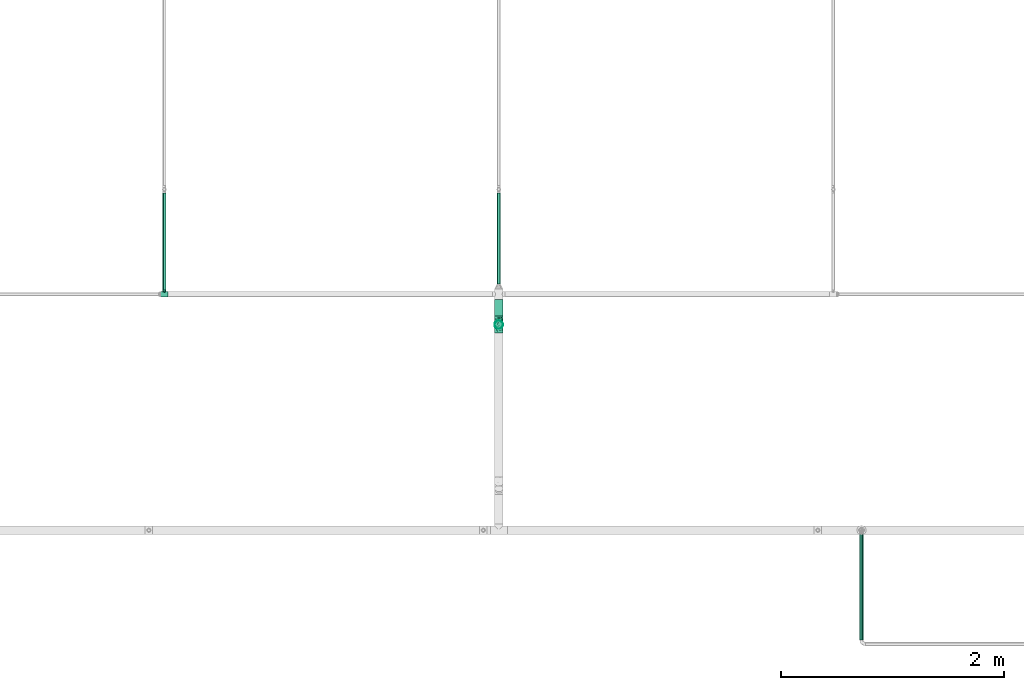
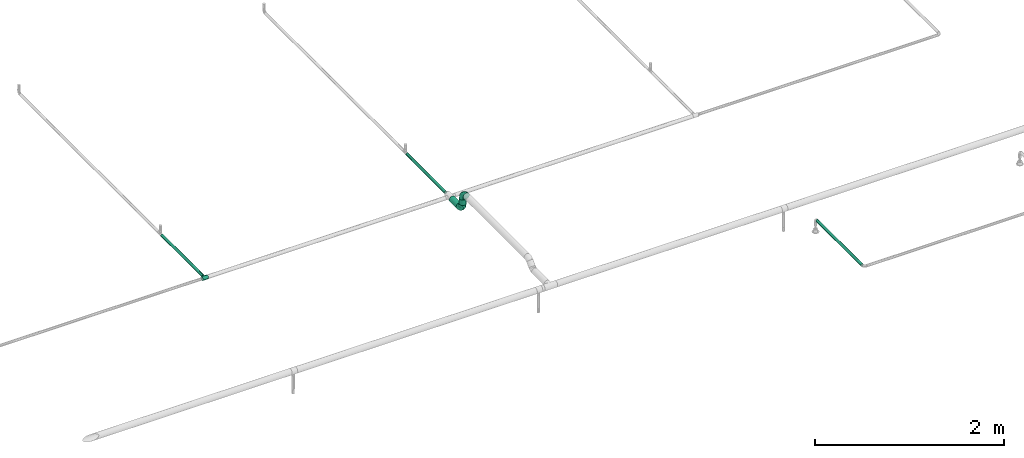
# One storey, part 13 of 45: 5 flow segments, 3 flow fittings.
"""IFC2X3 building model written with IfcOpenShell, lengths in millimetres."""

import ifcopenshell
import ifcopenshell.guid

model = None  # the IFC model being written
_history = None  # IfcOwnerHistory: only IFC2X3 demands one
_inside = {}  # id of a spatial element -> (the spatial element, [elements in it])
_under = {}  # id of a project, library or spatial element -> (it, [spatial elements below it])
_declared = {}  # id of a project -> (the project, [libraries it declares])
_typed = {}  # id of a type object -> (the type object, [elements of that type])
_made_of = {}  # id of a material, layer set ... -> (it, [elements and type objects made of it])


def new_model(schema):
    """Start an empty IFC model of exactly this schema.

    Asked for "IFC4X3", IfcOpenShell would pick the latest addendum, in which some entities
    have other attributes; the version numbers below select the first issue.
    IFC2X3 requires an IfcOwnerHistory on every rooted entity: one is made here for all.
    """
    global model, _history
    if schema == "IFC4X3":
        model = ifcopenshell.file(schema_version=(4, 3, 0, 0))
    else:
        model = ifcopenshell.file(schema=schema)
    _inside.clear()
    _under.clear()
    _declared.clear()
    _typed.clear()
    _made_of.clear()
    _history = None
    if model.schema == "IFC2X3":
        org = make("IfcOrganization", Name="unknown")
        user = make(
            "IfcPersonAndOrganization",
            ThePerson=make("IfcPerson", FamilyName="unknown"),
            TheOrganization=org,
        )
        app = make(
            "IfcApplication",
            ApplicationDeveloper=org,
            Version="unknown",
            ApplicationFullName="unknown",
            ApplicationIdentifier="unknown",
        )
        _history = make(
            "IfcOwnerHistory",
            OwningUser=user,
            OwningApplication=app,
            ChangeAction="ADDED",
            CreationDate=0,
        )
    return model


def make(cls, **values):
    """One entity of the class cls with the attributes given. An attribute that is None is left unset."""
    return model.create_entity(
        cls, **{name: value for name, value in values.items() if value is not None}
    )


def entity(cls, *values):
    """Any entity or typed value of the class cls, its attributes in the order of the schema. None: left unset."""
    e = model.create_entity(cls)
    for i, value in enumerate(values):
        if value is not None:
            e[i] = value
    return e


def rooted(cls, **values):
    """An entity with a GlobalId (a new one), such as an element, a storey or a relation."""
    return make(cls, GlobalId=ifcopenshell.guid.new(), OwnerHistory=_history, **values)


def si_unit(unit_type, name, prefix=None):
    """IfcSIUnit, for example si_unit("LENGTHUNIT", "METRE", prefix="MILLI")."""
    return make("IfcSIUnit", UnitType=unit_type, Prefix=prefix, Name=name)


def converted_unit(unit_type, name, factor, base, dimensions=None, offset=None):
    """IfcConversionBasedUnit, such as the inch: factor (a typed value) times the base unit."""
    return make(
        "IfcConversionBasedUnit"
        if offset is None
        else "IfcConversionBasedUnitWithOffset",
        ConversionOffset=offset,
        Dimensions=None
        if dimensions is None
        else entity("IfcDimensionalExponents", *dimensions),
        UnitType=unit_type,
        Name=name,
        ConversionFactor=make(
            "IfcMeasureWithUnit", ValueComponent=factor, UnitComponent=base
        ),
    )


def derived_unit(unit_type, elements):
    """IfcDerivedUnit: a product of units, each with its exponent."""
    return make(
        "IfcDerivedUnit",
        Elements=[
            make("IfcDerivedUnitElement", Unit=unit, Exponent=power)
            for unit, power in elements
        ],
        UnitType=unit_type,
    )


def assignment(units):
    """IfcUnitAssignment: the units of a project."""
    return None if units is None else make("IfcUnitAssignment", Units=units)


def point(xyz):
    """IfcCartesianPoint."""
    return None if xyz is None else make("IfcCartesianPoint", Coordinates=xyz)


def direction(xyz):
    """IfcDirection."""
    return None if xyz is None else make("IfcDirection", DirectionRatios=xyz)


def frame(location, z_axis=None, x_axis=None):
    """IfcAxis2Placement3D, a coordinate frame: its origin and axes. An axis left out is left unset."""
    return make(
        "IfcAxis2Placement3D",
        Location=point(location),
        Axis=direction(z_axis),
        RefDirection=direction(x_axis),
    )


def frame_2d(location, x_axis=None):
    """IfcAxis2Placement2D, a coordinate frame in the plane: its origin and x axis."""
    return make(
        "IfcAxis2Placement2D", Location=point(location), RefDirection=direction(x_axis)
    )


def origin_with_axes():
    """The frame at (0, 0, 0) with the z axis (0, 0, 1) and the x axis (1, 0, 0) written out."""
    return frame((0.0, 0.0, 0.0), z_axis=(0.0, 0.0, 1.0), x_axis=(1.0, 0.0, 0.0))


def origin_2d_with_axis():
    """The frame at (0, 0) in the plane with the x axis (1, 0) written out."""
    return frame_2d((0.0, 0.0), x_axis=(1.0, 0.0))


def place(relative_to, where):
    """IfcLocalPlacement: puts the frame where relative to a parent placement (None: the world)."""
    return make(
        "IfcLocalPlacement", PlacementRelTo=relative_to, RelativePlacement=where
    )


def context(
    kind, dimensions, precision=None, world=None, true_north=None, identifier=None
):
    """IfcGeometricRepresentationContext, for example the 3D "Model" context."""
    return make(
        "IfcGeometricRepresentationContext",
        ContextIdentifier=identifier,
        ContextType=kind,
        CoordinateSpaceDimension=dimensions,
        Precision=precision,
        WorldCoordinateSystem=world,
        TrueNorth=true_north,
    )


def subcontext(parent, identifier, kind, view, scale=None):
    """IfcGeometricRepresentationSubContext, for example "Body" below "Model"."""
    return make(
        "IfcGeometricRepresentationSubContext",
        ContextIdentifier=identifier,
        ContextType=kind,
        ParentContext=parent,
        TargetScale=scale,
        TargetView=view,
    )


def project(units=None, contexts=None):
    """IfcProject with its units and contexts."""
    return rooted(
        "IfcProject",
        Name="project",
        RepresentationContexts=contexts,
        UnitsInContext=assignment(units),
    )


def spatial(cls, under=None, at=None, **own):
    """A site, building, storey or space (cls), placed at a placement, below another one or the project."""
    s = rooted(cls, ObjectPlacement=at, **own)
    if under is not None:
        _under.setdefault(under.id(), (under, []))[1].append(s)
    return s


def profile(cls, at=None, kind="AREA", **sizes):
    """A parametric profile (cls). Its sizes go by their IFC names, for example OverallWidth=200.0."""
    return make(cls, ProfileType=kind, Position=at, **sizes)


def hollow_circle(**sizes):
    """IfcCircleHollowProfileDef."""
    return profile("IfcCircleHollowProfileDef", **sizes)


def extrude(swept, where, along, depth):
    """IfcExtrudedAreaSolid: the profile swept, set in the frame where, extruded along a direction by depth."""
    return make(
        "IfcExtrudedAreaSolid",
        SweptArea=swept,
        Position=where,
        ExtrudedDirection=direction(along),
        Depth=depth,
    )


def faces_of(points, faces, orient=None, outer=None):
    """IfcFace entities. A face is a list of loops; a loop is a list of indices into points, from 0.

    orient and outer hold one flag for each loop. By default every Orientation is true, the
    first loop of a face is its IfcFaceOuterBound and the others are IfcFaceBound.
    """
    made = []
    for i, loops in enumerate(faces):
        bounds = []
        for j, loop in enumerate(loops):
            is_outer = j == 0 if outer is None else outer[i][j]
            bounds.append(
                make(
                    "IfcFaceOuterBound" if is_outer else "IfcFaceBound",
                    Bound=make("IfcPolyLoop", Polygon=[points[k] for k in loop]),
                    Orientation=True if orient is None else orient[i][j],
                )
            )
        made.append(make("IfcFace", Bounds=bounds))
    return made


def open_shell(faces, orient=None, outer=None):
    """The faces of one IfcOpenShell. surface_model builds it on its shared points."""
    return ("IfcOpenShell", faces, orient, outer)


def surface_model(cls, points, shells):
    """IfcFaceBasedSurfaceModel or IfcShellBasedSurfaceModel (cls): surfaces that need not close."""
    shared = [point(p) for p in points]
    made = [make(c, CfsFaces=faces_of(shared, fs, o, b)) for c, fs, o, b in shells]
    if cls == "IfcFaceBasedSurfaceModel":
        return make(cls, FbsmFaces=made)
    return make(cls, SbsmBoundary=made)


def shape(context_of_items, identifier, shape_type, items):
    """IfcShapeRepresentation: the items that make up one representation, for example the "Body"."""
    return make(
        "IfcShapeRepresentation",
        ContextOfItems=context_of_items,
        RepresentationIdentifier=identifier,
        RepresentationType=shape_type,
        Items=items,
    )


def source(mapping_origin, context_of_items, identifier, shape_type, items):
    """IfcRepresentationMap: a shape defined once, which mapped items show again and again."""
    return make(
        "IfcRepresentationMap",
        MappingOrigin=mapping_origin,
        MappedRepresentation=shape(context_of_items, identifier, shape_type, items),
    )


def transform(
    local_origin,
    x_axis=None,
    y_axis=None,
    z_axis=None,
    scale=None,
    scale2=None,
    scale3=None,
    uniform=True,
):
    """IfcCartesianTransformationOperator3D, or its non-uniform kind. x_axis, y_axis, z_axis: its Axis1, 2, 3."""
    if uniform:
        return make(
            "IfcCartesianTransformationOperator3D",
            Axis1=direction(x_axis),
            Axis2=direction(y_axis),
            LocalOrigin=point(local_origin),
            Scale=scale,
            Axis3=direction(z_axis),
        )
    return make(
        "IfcCartesianTransformationOperator3DnonUniform",
        Axis1=direction(x_axis),
        Axis2=direction(y_axis),
        LocalOrigin=point(local_origin),
        Scale=scale,
        Axis3=direction(z_axis),
        Scale2=scale2,
        Scale3=scale3,
    )


def mapped(mapping_source, mapping_target):
    """IfcMappedItem: shows the shape of a source again, moved by a transform."""
    return make(
        "IfcMappedItem", MappingSource=mapping_source, MappingTarget=mapping_target
    )


def made_of(thing, what):
    """Note that an element or type object is made of a material, layer set ...; save() writes the relation."""
    if what is not None:
        _made_of.setdefault(what.id(), (what, []))[1].append(thing)
    return thing


def type_object(cls, material=None, **own):
    """A type object (cls), such as IfcWallType, which elements share."""
    return made_of(rooted(cls, **own), material)


def element(
    cls,
    number,
    at=None,
    inside=None,
    cuts=None,
    type_object=None,
    material=None,
    context=None,
    identifier="Body",
    shape_type=None,
    held_by="IfcProductDefinitionShape",
    body=None,
    shapes=None,
    **own,
):
    """One element of the class cls, such as IfcWall. Its Tag is "e" and its number.

    at: its placement. inside: the storey or other place that contains it. cuts: it is an
    opening in that element (IfcRelVoidsElement). A single representation is given by context,
    identifier, shape_type and body (its items); several are given by shapes. held_by: the class
    of the entity that holds the representations. save() writes the other relations.
    """
    e = rooted(cls, Tag="e%d" % number, ObjectPlacement=at, **own)
    if body is not None:
        shapes = [shape(context, identifier, shape_type, body)]
    if shapes is not None:
        e.Representation = make(held_by, Representations=shapes)
    if inside is not None:
        _inside.setdefault(inside.id(), (inside, []))[1].append(e)
    if cuts is not None:
        rooted(
            "IfcRelVoidsElement", RelatingBuildingElement=cuts, RelatedOpeningElement=e
        )
    if type_object is not None:
        _typed.setdefault(type_object.id(), (type_object, []))[1].append(e)
    return made_of(e, material)


def aggregate(whole, parts):
    """IfcRelAggregates: a whole, such as a stair, and the parts it consists of."""
    return rooted("IfcRelAggregates", RelatingObject=whole, RelatedObjects=parts)


def save(model, path):
    """Write the relations noted so far, then the file.

    IfcRelAggregates (storeys below a building ...), IfcRelContainedInSpatialStructure (elements
    in a storey), IfcRelDefinesByType, IfcRelAssociatesMaterial and IfcRelDeclares: one each for
    every whole, place, type object, material and project.
    """
    for whole, parts in _under.values():
        aggregate(whole, parts)
    for where, things in _inside.values():
        rooted(
            "IfcRelContainedInSpatialStructure",
            RelatedElements=things,
            RelatingStructure=where,
        )
    for kind, things in _typed.values():
        rooted("IfcRelDefinesByType", RelatedObjects=things, RelatingType=kind)
    for what, things in _made_of.values():
        rooted("IfcRelAssociatesMaterial", RelatedObjects=things, RelatingMaterial=what)
    for by, libraries in _declared.values():
        rooted("IfcRelDeclares", RelatingContext=by, RelatedDefinitions=libraries)
    model.write(path)


model = new_model("IFC2X3")

# Units and contexts
model_context = context("Model", 3, precision=0.01, world=frame((0.0, 4.29681676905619e-09, 0.0)), true_north=direction((4.01073788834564e-13, 1.0)))
plan_context = context("Plan", 3, precision=0.01, world=frame((0.0, 4.29681676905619e-09, 0.0)), true_north=direction((4.01073788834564e-13, 1.0)))
body_context = subcontext(model_context, "Body", "Model", "MODEL_VIEW")
ifc_project = project(units=[converted_unit("PLANEANGLEUNIT", "DEGREE", entity("IfcPositiveLengthMeasure", 0.0174532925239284), si_unit("PLANEANGLEUNIT", "RADIAN"), dimensions=[0, 0, 0, 0, 0, 0, 0]), si_unit("AREAUNIT", "SQUARE_METRE"), si_unit("LENGTHUNIT", "METRE", prefix="MILLI"), si_unit("MASSUNIT", "GRAM", prefix="KILO"), si_unit("POWERUNIT", "WATT"), si_unit("PRESSUREUNIT", "PASCAL", prefix="KILO"), si_unit("FORCEUNIT", "NEWTON", prefix="KILO"), si_unit("ELECTRICVOLTAGEUNIT", "VOLT"), si_unit("ELECTRICCURRENTUNIT", "AMPERE"), si_unit("THERMODYNAMICTEMPERATUREUNIT", "DEGREE_CELSIUS"), si_unit("TIMEUNIT", "SECOND"), si_unit("VOLUMEUNIT", "CUBIC_METRE"), derived_unit("LINEARVELOCITYUNIT", [(si_unit("LENGTHUNIT", "METRE"), 1), (si_unit("TIMEUNIT", "SECOND"), -1)]), derived_unit("VOLUMETRICFLOWRATEUNIT", [(si_unit("VOLUMEUNIT", "CUBIC_METRE"), 1), (si_unit("TIMEUNIT", "SECOND"), -1)]), derived_unit("THERMALTRANSMITTANCEUNIT", [(si_unit("POWERUNIT", "WATT"), 1), (si_unit("THERMODYNAMICTEMPERATUREUNIT", "KELVIN"), -1), (si_unit("AREAUNIT", "SQUARE_METRE"), -1)]), derived_unit("SOUNDPRESSUREUNIT", [(si_unit("PRESSUREUNIT", "PASCAL"), 1)])], contexts=[model_context, plan_context])

# Site, building, storey
site_placement = place(None, frame((0.0, -4.29681676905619e-09, 0.0), z_axis=(0.0, 0.0, 1.0), x_axis=(1.0, 0.0, 0.0)))
site = spatial("IfcSite", under=ifc_project, at=site_placement, CompositionType="ELEMENT")
building_placement = place(site_placement, frame((0.0, 4.29681676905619e-09, 0.0), z_axis=(0.0, 0.0, 1.0), x_axis=(1.0, 0.0, 0.0)))
building = spatial("IfcBuilding", under=site, at=building_placement, Name="mc-building", CompositionType="ELEMENT")
storey_placement = place(building_placement, frame((0.0, 0.0, 210200.0), z_axis=(0.0, 0.0, 1.0), x_axis=(1.0, 0.0, 0.0)))
storey = spatial("IfcBuildingStorey", under=building, at=storey_placement, Name="Nivå F - 0,7 m", CompositionType="ELEMENT", Elevation=210200.0)

# Flow fittings
pipe_fitting_type_1 = type_object("IfcPipeFittingType", Name="magi_pipe_fe_tee_centric_90_001", PredefinedType="JUNCTION")
shared_shape_1 = source(origin_with_axes(), body_context, "Body", "SurfaceModel", [
    surface_model("IfcShellBasedSurfaceModel", [(-33.8, 0.0, -24.2), (-33.8, -6.26342, -23.37541), (-33.8, 6.26342, -23.37541), (-33.8, 12.1, -20.95781), (-33.8, 17.11198, -17.11198), (-33.8, 20.95781, -12.1), (-33.8, -23.37541, -6.26342), (-33.8, 23.37541, -6.26342), (-33.8, -17.11198, -17.11198), (-33.8, -20.95781, -12.1), (-33.8, -12.1, -20.95781), (-33.8, -24.2, 0.0), (-33.8, -23.37541, 6.26342), (-33.8, 20.95781, 12.1), (-33.8, 23.37541, 6.26342), (-33.8, 24.2, 0.0), (-33.8, 12.1, 20.95781), (-33.8, 17.11198, 17.11198), (-33.8, -17.11198, 17.11198), (-33.8, 6.26342, 23.37541), (-33.8, -20.95781, 12.1), (-33.8, -12.1, 20.95781), (-33.8, -6.26342, 23.37541), (-33.8, 0.0, 24.2), (33.8, 6.26342, -23.37541), (33.8, -6.26342, -23.37541), (33.8, 0.0, -24.2), (33.8, 17.11198, -17.11198), (33.8, 12.1, -20.95781), (33.8, -23.37541, -6.26342), (33.8, 20.95781, -12.1), (33.8, 23.37541, -6.26342), (33.8, -17.11198, -17.11198), (33.8, -12.1, -20.95781), (33.8, -20.95781, -12.1), (33.8, -24.2, 0.0), (33.8, 24.2, 0.0), (33.8, 23.37541, 6.26342), (33.8, 20.95781, 12.1), (33.8, -23.37541, 6.26342), (33.8, -17.11198, 17.11198), (33.8, 12.1, 20.95781), (33.8, 17.11198, 17.11198), (33.8, 6.26342, 23.37541), (33.8, -20.95781, 12.1), (33.8, -12.1, 20.95781), (33.8, 0.0, 24.2), (33.8, -6.26342, 23.37541), (15.81824, -23.45734, 5.94922), (16.9, -24.2, 0.0), (12.87025, -21.57947, 10.95293), (33.8, -19.0349, 14.60599), (8.52813, -19.30697, 14.59044), (3.03527, -17.5853, 16.6252), (-3.04044, -17.58619, 16.62425), (-8.52961, -19.30762, 14.58958), (-33.8, -19.0349, 14.60599), (-16.9, -24.2, 0.0), (-15.81885, -23.45775, 5.9476), (-12.87368, -21.58151, 10.9489), (3.03527, -17.5853, -16.6252), (33.8, -19.0349, -14.60599), (8.52813, -19.30697, -14.59044), (-8.52961, -19.30762, -14.58958), (-33.8, -19.0349, -14.60599), (12.87025, -21.57947, -10.95293), (-3.04044, -17.58619, -16.62425), (15.81824, -23.45734, -5.94922), (-12.87368, -21.58151, -10.9489), (-15.81885, -23.45775, -5.9476), (4.37404, -36.3, -16.32415), (-16.9, -36.3, 0.0), (0.0, -36.3, -16.9), (14.63583, -36.3, -8.45), (8.45, -36.3, -14.63583), (16.32415, -36.3, -4.37404), (11.9501, -36.3, -11.9501), (-11.9501, -36.3, -11.9501), (-8.45, -36.3, -14.63583), (-4.37404, -36.3, -16.32415), (-14.63583, -36.3, -8.45), (-16.32415, -36.3, -4.37404), (16.9, -36.3, 0.0), (8.45, -36.3, 14.63583), (16.32415, -36.3, 4.37404), (14.63583, -36.3, 8.45), (-8.45, -36.3, 14.63583), (11.9501, -36.3, 11.9501), (4.37404, -36.3, 16.32415), (-16.32415, -36.3, 4.37404), (-11.9501, -36.3, 11.9501), (-14.63583, -36.3, 8.45), (0.0, -36.3, 16.9), (-4.37404, -36.3, 16.32415), (-16.35943, -23.82888, 2.9738), (16.35912, -23.82867, 2.97461), (-0.00259, -17.58575, 16.62472), (16.35912, -23.82867, -2.97461), (-0.00259, -17.58575, -16.62472), (-16.35943, -23.82888, -2.9738)], [open_shell([[[0, 1, 2]], [[3, 2, 4]], [[5, 2, 6]], [[4, 2, 5]], [[7, 5, 6]], [[8, 9, 10]], [[1, 10, 9]], [[1, 9, 2]], [[9, 6, 2]], [[6, 11, 7]], [[11, 12, 7]], [[13, 14, 15]], [[13, 15, 12]], [[16, 17, 18]], [[12, 17, 13]], [[19, 16, 18]], [[20, 18, 12]], [[18, 17, 12]], [[21, 22, 18]], [[23, 18, 22]], [[18, 23, 19]], [[7, 12, 15]], [[24, 25, 26]], [[27, 24, 28]], [[29, 24, 30]], [[30, 24, 27]], [[29, 30, 31]], [[25, 32, 33]], [[32, 25, 34]], [[24, 34, 25]], [[24, 29, 34]], [[31, 35, 29]], [[31, 36, 35]], [[36, 37, 38]], [[39, 36, 38]], [[40, 38, 41]], [[41, 38, 42]], [[40, 41, 43]], [[39, 40, 44]], [[39, 38, 40]], [[45, 46, 47]], [[46, 45, 40]], [[43, 46, 40]], [[36, 39, 35]], [[35, 39, 48]], [[48, 49, 35]], [[39, 50, 48]], [[51, 40, 52]], [[52, 50, 44]], [[53, 52, 40]], [[54, 53, 21]], [[44, 50, 39]], [[55, 18, 56]], [[57, 58, 11]], [[12, 11, 58]], [[58, 59, 12]], [[55, 54, 18]], [[55, 20, 59]], [[20, 55, 56]], [[59, 20, 12]], [[18, 54, 21]], [[52, 44, 51]], [[53, 40, 45]], [[23, 47, 46]], [[22, 45, 47]], [[19, 46, 43]], [[38, 37, 14]], [[17, 41, 42]], [[13, 42, 38]], [[43, 41, 16]], [[15, 37, 36]], [[21, 45, 22]], [[22, 47, 23]], [[19, 23, 46]], [[43, 16, 19]], [[16, 41, 17]], [[13, 17, 42]], [[14, 13, 38]], [[37, 15, 14]], [[45, 21, 53]], [[5, 31, 30]], [[7, 36, 31]], [[4, 30, 27]], [[26, 25, 1]], [[2, 28, 24]], [[0, 24, 26]], [[27, 28, 3]], [[10, 25, 33]], [[15, 36, 7]], [[7, 31, 5]], [[4, 5, 30]], [[27, 3, 4]], [[3, 28, 2]], [[0, 2, 24]], [[1, 0, 26]], [[25, 10, 1]], [[33, 60, 10]], [[61, 34, 62]], [[63, 9, 64]], [[62, 60, 32]], [[34, 65, 62]], [[66, 10, 60]], [[29, 35, 67]], [[67, 65, 29]], [[49, 67, 35]], [[29, 65, 34]], [[66, 63, 8]], [[62, 32, 61]], [[64, 8, 63]], [[63, 68, 9]], [[8, 10, 66]], [[68, 69, 6]], [[69, 11, 6]], [[11, 69, 57]], [[68, 6, 9]], [[60, 33, 32]], [[70, 71, 72]], [[73, 70, 74]], [[73, 75, 70]], [[73, 74, 76]], [[71, 70, 75]], [[72, 77, 78]], [[78, 79, 72]], [[80, 71, 81]], [[77, 72, 80]], [[71, 80, 72]], [[75, 82, 71]], [[83, 82, 84]], [[83, 84, 85]], [[86, 71, 83]], [[83, 85, 87]], [[86, 83, 88]], [[89, 90, 91]], [[90, 89, 86]], [[86, 92, 93]], [[89, 71, 86]], [[88, 92, 86]], [[83, 71, 82]], [[89, 94, 71]], [[59, 91, 90]], [[89, 91, 58]], [[90, 86, 55]], [[89, 58, 94]], [[94, 57, 71]], [[58, 91, 59]], [[95, 48, 84]], [[55, 93, 54]], [[55, 59, 90]], [[92, 53, 96]], [[55, 86, 93]], [[53, 92, 88]], [[83, 52, 88]], [[87, 85, 50]], [[87, 52, 83]], [[48, 85, 84]], [[87, 50, 52]], [[52, 53, 88]], [[82, 95, 84]], [[48, 50, 85]], [[95, 82, 49]], [[92, 54, 93]], [[96, 54, 92]], [[75, 97, 82]], [[65, 73, 76]], [[75, 73, 67]], [[76, 74, 62]], [[97, 49, 82]], [[67, 73, 65]], [[62, 70, 60]], [[62, 65, 76]], [[72, 66, 98]], [[62, 74, 70]], [[99, 71, 57]], [[99, 69, 81]], [[75, 67, 97]], [[79, 66, 72]], [[69, 80, 81]], [[77, 80, 68]], [[72, 60, 70]], [[79, 63, 66]], [[63, 79, 78]], [[78, 77, 63]], [[63, 77, 68]], [[68, 80, 69]], [[71, 99, 81]], [[98, 60, 72]]])]),
])
flow_fitting_placement = place(storey_placement, frame((338657.5, 462235.84736, 2810.47070000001), z_axis=(7.99999999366e-06, -3.89999999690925e-05, 0.9999999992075), x_axis=(-0.999999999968, -3.11999999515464e-10, 7.999999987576e-06)))
element("IfcFlowFitting", 1, at=flow_fitting_placement, inside=storey, type_object=pipe_fitting_type_1, Name="magi_pipe_fe_tee_centric_90_001", context=body_context, shape_type="MappedRepresentation", body=[
    mapped(shared_shape_1, transform((0.0, 0.0, 0.0), scale=1.0)),
])
pipe_fitting_type_2 = type_object("IfcPipeFittingType", Name="magi_pipe_fe_elbow_short_001", PredefinedType="BEND")
shared_shape_2 = source(origin_with_axes(), body_context, "Body", "SurfaceModel", [
    surface_model("IfcShellBasedSurfaceModel", [(-76.2, 19.05, -32.99557), (-76.2, 9.86101, -36.80177), (-76.2, 0.0, -38.1), (-76.2, 26.94077, -26.94077), (-76.2, 36.80177, -9.86101), (-76.2, 32.99557, -19.05), (-76.2, -26.94077, -26.94077), (-76.2, -36.80177, -9.86101), (-76.2, -19.05, -32.99557), (-76.2, -9.86101, -36.80177), (-76.2, -32.99557, -19.05), (-76.2, -38.1, 0.0), (-76.2, -36.80177, 9.86101), (-76.2, 26.94077, 26.94077), (-76.2, 36.80177, 9.86101), (-76.2, 32.99557, 19.05), (-76.2, 9.86101, 36.80177), (-76.2, 19.05, 32.99557), (-76.2, 0.0, 38.1), (-76.2, -32.99557, 19.05), (-76.2, -26.94077, 26.94077), (-76.2, -9.86101, 36.80177), (-76.2, -19.05, 32.99557), (-76.2, 38.1, 0.0), (0.0, 76.2, -38.1), (-9.86101, 76.2, -36.80177), (-19.05, 76.2, -32.99557), (-26.94077, 76.2, -26.94077), (-32.99557, 76.2, -19.05), (-36.80177, 76.2, -9.86101), (26.94077, 76.2, -26.94077), (36.80177, 76.2, -9.86101), (9.86101, 76.2, -36.80177), (19.05, 76.2, -32.99557), (32.99557, 76.2, -19.05), (36.80177, 76.2, 9.86101), (38.1, 76.2, 0.0), (-36.80177, 76.2, 9.86101), (-26.94077, 76.2, 26.94077), (-32.99557, 76.2, 19.05), (-19.05, 76.2, 32.99557), (-9.86101, 76.2, 36.80177), (0.0, 76.2, 38.1), (26.94077, 76.2, 26.94077), (32.99557, 76.2, 19.05), (9.86101, 76.2, 36.80177), (19.05, 76.2, 32.99557), (-38.1, 76.2, 0.0), (-51.47253, -33.41495, 11.97429), (-55.87921, -29.59735, 21.38675), (-40.87936, -32.50576, 0.0), (-57.46182, -35.13216, 0.0), (-9.7569, -13.15819, 14.69187), (-2.65186, -10.17769, 8.01257), (2.20082, -2.20082, 15.78668), (-58.2046, -5.04721, 37.4484), (-53.35237, 5.84022, 38.03506), (13.01533, 9.30417, 14.3119), (23.26567, 31.00373, 18.95093), (8.92292, 13.82363, 24.31711), (-37.93212, -0.34191, 36.92855), (-55.73356, -14.37507, 34.26516), (-29.5907, -8.99996, 31.84562), (-48.87429, -21.76577, 28.30344), (-34.13735, -29.20196, 7.83838), (-24.94775, -24.3882, 0.0), (-13.82363, -8.92292, 24.31711), (-6.80575, 6.80575, 31.14998), (-37.24299, 60.80967, 16.55959), (-31.82754, 59.31737, 25.03043), (-14.22204, 65.71998, 35.68746), (-5.22176, 56.99222, 38.00642), (-58.73143, 14.94265, 35.9909), (-9.94517, 25.51838, 37.4103), (-18.93111, 6.98952, 35.57772), (-3.89226, 20.58438, 35.01344), (-65.91802, 23.07271, 31.04479), (-13.24152, 37.4675, 38.03164), (-28.22122, 28.22122, 37.17425), (-22.68668, 16.64938, 37.90374), (-60.23482, 40.58212, 8.37688), (-60.8286, 37.23683, 16.55705), (-47.30619, 47.30619, 14.2421), (-59.55922, 31.76102, 25.00381), (21.76577, 48.87429, 28.30344), (-39.51357, 50.50487, 21.56421), (14.37507, 55.73356, 34.26516), (29.59735, 55.87921, 21.38675), (33.41495, 51.47253, 11.97429), (-9.01615, -16.27064, 0.0), (-18.50075, -20.95742, 9.87146), (5.04721, 58.2046, 37.4484), (-41.86713, 16.32002, 37.41817), (-37.38612, 9.33613, 38.08374), (24.3882, 24.94775, 0.0), (29.20196, 34.13735, 7.83838), (20.95742, 18.50075, 9.87146), (35.13216, 57.46182, 0.0), (-40.50473, 25.85184, 35.24027), (-31.00373, -23.26567, 18.95093), (-27.62233, 49.24446, 32.02197), (-23.27638, 63.88751, 31.20285), (-40.10509, 61.46399, 8.17366), (-47.75011, 49.97248, 6.70535), (17.55292, 30.69115, 25.82241), (8.99996, 29.5907, 31.84562), (-43.20443, 57.15, 0.0), (-35.27088, 40.23417, 31.3068), (-52.46543, 25.86294, 32.08413), (-0.58232, 0.58231, 22.50977), (-21.74145, 39.43998, 36.62577), (-30.35377, 36.8865, 34.66668), (-16.47755, 51.62643, 36.28492), (-40.16133, 42.54966, 26.98796), (-48.93373, 40.93898, 21.24545), (0.34191, 37.93212, 36.92855), (-30.54899, -16.70018, 26.56572), (10.38979, 2.76708, 7.59679), (32.50576, 40.87936, 0.0), (16.27064, 9.01615, 0.0), (-57.15, 43.20443, 0.0), (3.62725, -3.62725, 0.0), (-56.18403, 32.81229, -25.37784), (-60.79374, 37.24818, -16.56172), (-31.12583, -9.61531, -31.96506), (-33.08389, -0.47526, -36.23756), (-15.30809, -0.63756, -31.219), (-60.31522, 4.8175, -37.976), (-55.58208, -34.10815, -12.42093), (-47.87166, -28.25416, -20.6363), (-36.35476, -28.57081, -12.78243), (-55.4317, 15.55274, -36.12913), (-41.97308, 9.00674, -38.09177), (-32.8123, 56.18403, -25.37784), (-61.68117, 39.97816, -8.33686), (-23.91371, 59.81378, -31.51803), (-15.55274, 55.4317, -36.12913), (-48.48008, 48.48008, -9.09668), (22.76239, 55.12076, -28.76608), (13.14871, 48.24989, -33.88525), (15.02018, 64.34702, -34.67535), (-7.42295, -13.4022, -10.03386), (-7.53093, -9.8797, -17.36177), (4.09889, -3.23385, -10.05311), (-22.23209, 20.60173, -38.07837), (-36.11879, 22.54399, -36.96599), (-59.81378, 23.91371, -31.51803), (-64.14494, -30.32973, -22.13621), (-37.06617, 43.2809, -28.69704), (-35.21221, 35.21221, -33.45314), (-46.56802, 32.18433, -30.26847), (3.32253, -0.70027, -16.3296), (-55.12076, -22.76239, -28.76608), (28.25416, 47.87166, -20.6363), (34.10815, 55.58208, -12.42093), (28.57081, 36.35476, -12.78243), (-64.34702, -15.02018, -34.67535), (4.80394, 56.13349, -37.40338), (-24.08639, -18.54476, -20.78452), (-28.44745, -15.54194, -26.65272), (-13.81153, -9.41447, -23.82138), (-41.58053, -17.39667, -29.91543), (-48.24989, -13.14871, -33.88525), (-56.1335, -4.80394, -37.40338), (-28.5499, 46.87201, -32.27447), (-39.97816, 61.68117, -8.33686), (-4.8175, 60.31522, -37.976), (-13.45022, 13.45022, -35.97664), (0.47526, 33.08389, -36.23756), (1.60394, 17.89715, -31.77365), (-37.24818, 60.79374, -16.56172), (-45.75928, 45.75928, -18.77942), (30.32973, 64.14494, -22.13621), (22.08018, 30.6107, -20.46174), (12.28189, 14.44402, -21.13272), (15.54194, 28.44745, -26.65272), (7.87454, 32.5264, -33.28409), (-9.00674, 41.97308, -38.09177), (-46.32128, 24.51975, -34.33978), (-22.71812, 37.0764, -36.7817), (-0.36118, 0.36118, -22.07635), (-17.64772, -21.30183, -6.55407), (19.53658, 18.92928, -14.18962), (21.30183, 17.64772, -6.55407), (4.4885, 11.61303, -26.72553), (-18.92929, -19.53658, -14.18962)], [open_shell([[[0, 1, 2]], [[3, 0, 2]], [[4, 5, 3]], [[6, 3, 2]], [[4, 3, 7]], [[8, 6, 9]], [[6, 2, 9]], [[10, 7, 6]], [[6, 7, 3]], [[11, 12, 7]], [[12, 4, 7]], [[13, 14, 4]], [[15, 14, 13]], [[16, 17, 13]], [[4, 12, 13]], [[13, 18, 16]], [[19, 20, 12]], [[21, 12, 20]], [[22, 21, 20]], [[21, 13, 12]], [[21, 18, 13]], [[23, 4, 14]], [[24, 25, 26]], [[24, 26, 27]], [[27, 28, 29]], [[24, 27, 30]], [[31, 27, 29]], [[32, 30, 33]], [[32, 24, 30]], [[30, 31, 34]], [[27, 31, 30]], [[31, 35, 36]], [[31, 29, 35]], [[29, 37, 38]], [[38, 37, 39]], [[38, 40, 41]], [[29, 38, 35]], [[42, 38, 41]], [[35, 43, 44]], [[43, 35, 45]], [[43, 45, 46]], [[35, 38, 45]], [[38, 42, 45]], [[37, 29, 47]], [[48, 49, 19]], [[50, 48, 51]], [[52, 53, 54]], [[12, 48, 19]], [[12, 51, 48]], [[18, 55, 56]], [[19, 49, 20]], [[57, 58, 59]], [[60, 61, 62]], [[63, 22, 20]], [[63, 61, 22]], [[64, 50, 65]], [[62, 66, 67]], [[39, 68, 69]], [[41, 70, 71]], [[16, 72, 17]], [[73, 74, 75]], [[17, 76, 13]], [[21, 55, 18]], [[77, 78, 79]], [[80, 81, 82]], [[15, 83, 81]], [[84, 43, 46]], [[23, 14, 80]], [[14, 15, 81]], [[68, 85, 69]], [[83, 15, 13]], [[18, 56, 16]], [[46, 86, 84]], [[13, 76, 83]], [[87, 58, 88]], [[39, 37, 68]], [[89, 90, 65]], [[42, 91, 45]], [[65, 90, 64]], [[42, 41, 71]], [[92, 93, 79]], [[88, 35, 44]], [[44, 43, 87]], [[87, 88, 44]], [[94, 95, 96]], [[88, 97, 35]], [[98, 72, 92]], [[49, 99, 63]], [[69, 100, 101]], [[82, 102, 103]], [[104, 105, 59]], [[106, 102, 47]], [[98, 107, 108]], [[102, 82, 68]], [[86, 46, 45]], [[69, 38, 39]], [[109, 54, 57]], [[110, 100, 111]], [[22, 61, 21]], [[101, 40, 38]], [[70, 41, 40]], [[112, 77, 71]], [[84, 86, 105]], [[96, 95, 58]], [[100, 69, 113]], [[72, 16, 56]], [[108, 113, 83]], [[81, 114, 82]], [[112, 110, 77]], [[91, 71, 115]], [[62, 61, 63]], [[55, 61, 60]], [[116, 99, 66]], [[74, 62, 67]], [[91, 86, 45]], [[105, 86, 115]], [[75, 105, 115]], [[109, 67, 66]], [[59, 105, 67]], [[48, 64, 99]], [[99, 49, 48]], [[63, 20, 49]], [[43, 84, 87]], [[58, 87, 84]], [[92, 72, 56]], [[76, 72, 108]], [[102, 68, 37]], [[82, 114, 85]], [[98, 111, 107]], [[112, 70, 101]], [[114, 83, 113]], [[82, 103, 80]], [[92, 79, 78]], [[115, 71, 77]], [[74, 79, 60]], [[77, 79, 73]], [[71, 91, 42]], [[86, 91, 115]], [[61, 55, 21]], [[56, 55, 60]], [[57, 54, 117]], [[104, 59, 58]], [[116, 66, 62]], [[52, 99, 90]], [[12, 11, 51]], [[97, 88, 118]], [[97, 36, 35]], [[53, 90, 89]], [[90, 53, 52]], [[94, 96, 119]], [[88, 95, 118]], [[117, 54, 53]], [[92, 56, 93]], [[98, 92, 78]], [[111, 98, 78]], [[72, 98, 108]], [[110, 111, 78]], [[107, 111, 100]], [[47, 102, 37]], [[102, 106, 103]], [[106, 120, 103]], [[103, 120, 80]], [[23, 80, 120]], [[14, 81, 80]], [[56, 60, 93]], [[60, 79, 93]], [[117, 121, 119]], [[121, 117, 53]], [[53, 89, 121]], [[119, 96, 117]], [[117, 96, 57]], [[77, 110, 78]], [[100, 110, 112]], [[83, 114, 81]], [[85, 114, 113]], [[69, 85, 113]], [[82, 85, 68]], [[109, 52, 54]], [[99, 52, 66]], [[69, 101, 38]], [[112, 101, 100]], [[100, 113, 107]], [[108, 107, 113]], [[62, 74, 60]], [[75, 74, 67]], [[105, 75, 67]], [[73, 75, 115]], [[77, 73, 115]], [[74, 73, 79]], [[99, 64, 90]], [[50, 64, 48]], [[118, 95, 94]], [[58, 95, 88]], [[58, 57, 96]], [[109, 57, 59]], [[72, 76, 17]], [[83, 76, 108]], [[101, 70, 40]], [[71, 70, 112]], [[58, 84, 104]], [[105, 104, 84]], [[67, 109, 59]], [[52, 109, 66]], [[62, 63, 116]], [[99, 116, 63]], [[122, 5, 123]], [[124, 125, 126]], [[2, 1, 127]], [[128, 129, 130]], [[127, 131, 132]], [[28, 27, 133]], [[120, 134, 23]], [[135, 26, 136]], [[123, 134, 137]], [[138, 139, 140]], [[122, 3, 5]], [[141, 142, 143]], [[144, 132, 145]], [[131, 0, 146]], [[128, 10, 147]], [[148, 149, 150]], [[128, 51, 7]], [[142, 151, 143]], [[152, 6, 8]], [[153, 154, 155]], [[156, 152, 8]], [[32, 157, 24]], [[158, 159, 160]], [[147, 10, 6]], [[129, 152, 161]], [[156, 8, 9]], [[162, 163, 125]], [[154, 34, 31]], [[120, 106, 137]], [[149, 148, 164]], [[47, 29, 165]], [[163, 9, 2]], [[5, 4, 123]], [[25, 166, 136]], [[167, 168, 169]], [[170, 133, 171]], [[25, 24, 166]], [[33, 30, 138]], [[157, 32, 140]], [[29, 28, 170]], [[30, 34, 172]], [[26, 135, 27]], [[132, 131, 145]], [[32, 33, 140]], [[173, 174, 175]], [[169, 168, 176]], [[25, 136, 26]], [[175, 138, 173]], [[168, 177, 157]], [[163, 162, 156]], [[153, 172, 154]], [[10, 128, 7]], [[154, 97, 118]], [[131, 178, 145]], [[0, 3, 146]], [[175, 139, 138]], [[155, 118, 94]], [[131, 1, 0]], [[146, 178, 131]], [[170, 137, 165]], [[149, 179, 145]], [[171, 133, 148]], [[160, 180, 142]], [[65, 181, 89]], [[170, 165, 29]], [[137, 171, 123]], [[172, 138, 30]], [[138, 153, 173]], [[168, 157, 139]], [[166, 157, 177]], [[176, 175, 169]], [[168, 167, 144]], [[154, 31, 97]], [[155, 182, 173]], [[162, 124, 161]], [[147, 152, 129]], [[127, 163, 2]], [[132, 144, 125]], [[132, 125, 163]], [[125, 167, 126]], [[129, 158, 130]], [[31, 36, 97]], [[143, 182, 183]], [[169, 126, 167]], [[3, 122, 146]], [[178, 150, 149]], [[136, 179, 164]], [[133, 27, 135]], [[123, 4, 134]], [[122, 123, 171]], [[133, 170, 28]], [[137, 170, 171]], [[184, 175, 174]], [[180, 160, 126]], [[126, 169, 184]], [[126, 159, 124]], [[51, 128, 50]], [[51, 11, 7]], [[131, 127, 1]], [[163, 127, 132]], [[157, 166, 24]], [[136, 166, 177]], [[164, 179, 149]], [[144, 167, 125]], [[179, 144, 145]], [[168, 144, 177]], [[136, 177, 179]], [[144, 179, 177]], [[141, 121, 89]], [[89, 181, 141]], [[154, 118, 155]], [[183, 155, 94]], [[143, 183, 119]], [[119, 183, 94]], [[155, 183, 182]], [[181, 130, 185]], [[50, 128, 130]], [[130, 181, 65]], [[50, 130, 65]], [[141, 181, 185]], [[142, 141, 185]], [[143, 121, 141]], [[158, 160, 142]], [[142, 180, 151]], [[158, 142, 185]], [[126, 160, 159]], [[130, 158, 185]], [[129, 159, 158]], [[23, 134, 4]], [[120, 137, 134]], [[137, 106, 165]], [[47, 165, 106]], [[174, 151, 180]], [[182, 143, 151]], [[150, 146, 122]], [[149, 145, 178]], [[146, 150, 178]], [[122, 171, 148]], [[148, 150, 122]], [[164, 133, 135]], [[133, 164, 148]], [[164, 135, 136]], [[138, 140, 33]], [[157, 140, 139]], [[154, 172, 34]], [[138, 172, 153]], [[163, 156, 9]], [[152, 156, 162]], [[152, 147, 6]], [[128, 147, 129]], [[155, 173, 153]], [[174, 173, 182]], [[151, 174, 182]], [[174, 180, 184]], [[126, 184, 180]], [[175, 184, 169]], [[168, 139, 176]], [[175, 176, 139]], [[161, 124, 159]], [[125, 124, 162]], [[129, 161, 159]], [[162, 161, 152]], [[143, 119, 121]]])]),
])
for number, where, z_axis, x_axis, name in (
    (2, (341657.5, 461963.00156, 2810.44542), (-1.0, 0.0, 0.0), (0.0, -1.0, 0.0), "magi_pipe_fe_elbow_short_001"),
    (3, (341657.5, 461963.00156, 3031.91450000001), (1.0, 0.0, 0.0), (0.0, 0.0, 1.0), "magi_pipe_fe_elbow_short_001"),
):
    element("IfcFlowFitting", number, at=place(storey_placement, frame(where, z_axis=z_axis, x_axis=x_axis)), inside=storey, type_object=pipe_fitting_type_2, Name=name, context=body_context, shape_type="MappedRepresentation", body=[
        mapped(shared_shape_2, transform((0.0, 0.0, 0.0), scale=1.0)),
    ])

# Flow segments
pipe_segment_type = type_object("IfcPipeSegmentType", Name="Stålrør normaltykke", PredefinedType="RIGIDSEGMENT")
shared_shape_3 = source(origin_with_axes(), body_context, "Body", "SweptSolid", [
    extrude(hollow_circle(Radius=38.0, WallThickness=2.0, at=origin_2d_with_axis()), frame((0.0, 0.0, 0.0), z_axis=(1.0, 0.0, 0.0), x_axis=(0.0, 1.0, 0.0)), (0.0, 0.0, 1.0), 148.2),
])
flow_segment_1_placement = place(storey_placement, frame((341657.5, 462187.44736, 2810.44542), z_axis=(0.0, 0.0, 1.0), x_axis=(0.0, -1.0, 0.0)))
element("IfcFlowSegment", 4, at=flow_segment_1_placement, inside=storey, type_object=pipe_segment_type, Name="Stålrør normaltykke", context=body_context, shape_type="MappedRepresentation", body=[
    mapped(shared_shape_3, transform((0.0, 0.0, 0.0), scale=1.0)),
])
shared_shape_4 = source(origin_with_axes(), body_context, "Body", "SweptSolid", [
    extrude(hollow_circle(Radius=38.0, WallThickness=2.0, at=origin_2d_with_axis()), frame((0.0, 0.0, 0.0), z_axis=(1.0, 0.0, 0.0), x_axis=(0.0, 1.0, 0.0)), (0.0, 0.0, 1.0), 69.1),
])
flow_segment_2_placement = place(storey_placement, frame((341657.5, 461963.00156, 2886.64541999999), z_axis=(1.0, 0.0, 0.0), x_axis=(0.0, 0.0, 1.0)))
element("IfcFlowSegment", 5, at=flow_segment_2_placement, inside=storey, type_object=pipe_segment_type, Name="Stålrør normaltykke", context=body_context, shape_type="MappedRepresentation", body=[
    mapped(shared_shape_4, transform((0.0, 0.0, 0.0), scale=1.0)),
])
shared_shape_5 = source(origin_with_axes(), body_context, "Body", "SweptSolid", [
    extrude(hollow_circle(Radius=16.9, WallThickness=2.0, at=origin_2d_with_axis()), frame((0.0, 0.0, 0.0), z_axis=(1.0, 0.0, 0.0), x_axis=(0.0, 1.0, 0.0)), (0.0, 0.0, 1.0), 870.9),
])
flow_segment_3_placement = place(storey_placement, frame((338657.5, 463143.00156, 2810.44542), z_axis=(0.0, 2.5999999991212e-05, 0.999999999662), x_axis=(0.0, -0.999999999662, 2.5999999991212e-05)))
element("IfcFlowSegment", 6, at=flow_segment_3_placement, inside=storey, type_object=pipe_segment_type, Name="Stålrør normaltykke", context=body_context, shape_type="MappedRepresentation", body=[
    mapped(shared_shape_5, transform((0.0, 0.0, 0.0), scale=1.0)),
])
shared_shape_6 = source(origin_with_axes(), body_context, "Body", "SweptSolid", [
    extrude(hollow_circle(Radius=16.9, WallThickness=2.0, at=origin_2d_with_axis()), frame((0.0, 0.0, 0.0), z_axis=(1.0, 0.0, 0.0), x_axis=(0.0, 1.0, 0.0)), (0.0, 0.0, 1.0), 816.4),
])
flow_segment_4_placement = place(storey_placement, frame((341657.5, 463143.00156, 2810.44542), z_axis=(0.0, 0.0, 1.0), x_axis=(0.0, -1.0, 0.0)))
element("IfcFlowSegment", 7, at=flow_segment_4_placement, inside=storey, type_object=pipe_segment_type, Name="Stålrør normaltykke", context=body_context, shape_type="MappedRepresentation", body=[
    mapped(shared_shape_6, transform((0.0, 0.0, 0.0), scale=1.0)),
])
shared_shape_7 = source(origin_with_axes(), body_context, "Body", "SweptSolid", [
    extrude(hollow_circle(Radius=16.9, WallThickness=2.0, at=origin_2d_with_axis()), frame((0.0, 0.0, 0.0), z_axis=(1.0, 0.0, 0.0), x_axis=(0.0, 1.0, 0.0)), (0.0, 0.0, 1.0), 952.4),
])
flow_segment_5_placement = place(storey_placement, frame((344910.95175, 460086.20018, 2665.79999999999), z_axis=(0.0, 0.0, 1.0), x_axis=(0.0, -1.0, 0.0)))
element("IfcFlowSegment", 8, at=flow_segment_5_placement, inside=storey, type_object=pipe_segment_type, Name="Stålrør normaltykke", context=body_context, shape_type="MappedRepresentation", body=[
    mapped(shared_shape_7, transform((0.0, 0.0, 0.0), scale=1.0)),
])

save(model, "model.ifc")
